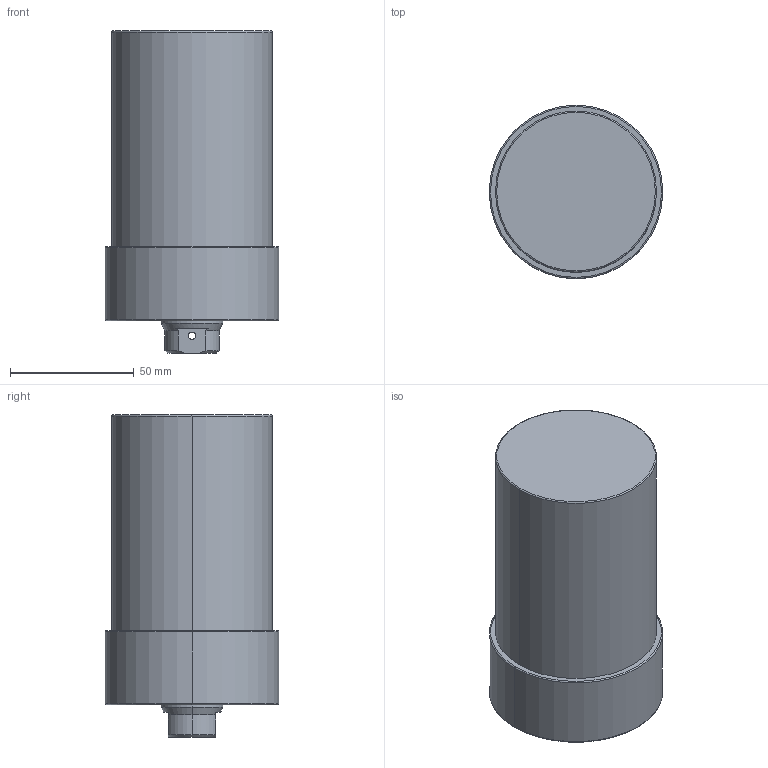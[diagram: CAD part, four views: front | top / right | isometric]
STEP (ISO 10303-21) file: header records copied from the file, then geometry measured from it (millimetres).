
FILE_DESCRIPTION (( 'STEP AP203' ), '1' );
FILE_NAME ('CLLU-065GB-070.STEP', '2020-01-06T08:49:24', ( '' ), ( '' ), 'SwSTEP 2.0', 'SolidWorks 2015', '' );
FILE_SCHEMA (( 'CONFIG_CONTROL_DESIGN' ));
Length unit declared in the file: millimetre
Products named in the file (1): CLLU-065GB-070
Bounding box: 70 x 70 x 130 mm (x, y, z)
Volume: 404620.5 mm3; surface area: 34986.2 mm2
Topology: 1 solids, 1 shells, 68 faces, 157 edges, 90 vertices
Faces by surface type: cylinder 27, cone 25, plane 10, torus 6
Entity records: 2051 total; most frequent: CARTESIAN_POINT 438, DIRECTION 352, ORIENTED_EDGE 294, AXIS2_PLACEMENT_3D 148, EDGE_CURVE 147, VERTEX_POINT 90, EDGE_LOOP 81, CIRCLE 79
